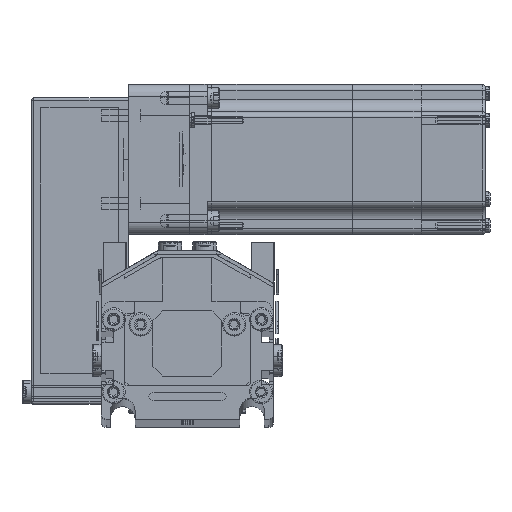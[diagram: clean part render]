
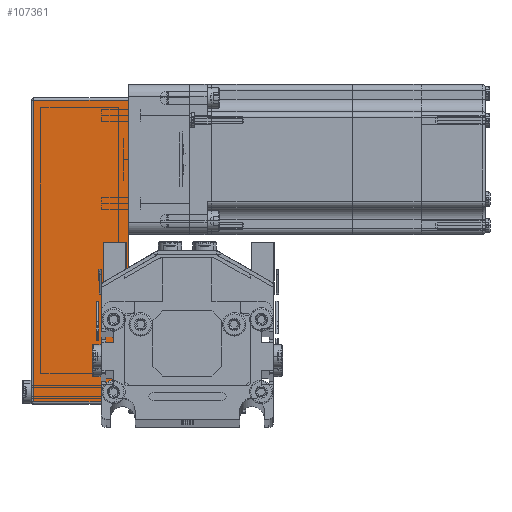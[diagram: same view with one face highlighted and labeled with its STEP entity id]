
A CAD part, top view. The second image highlights one B-rep face of the part: STEP entity #107361.
In plain terms, the highlighted planar face has unit normal (0, 0, 1) as drawn and (0, -1, 0) by its records, which use the part's own axes.
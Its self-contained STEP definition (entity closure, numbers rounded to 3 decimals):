
#35897 = LINE ( 'NONE', #36015, #36013 ) ;
#35901 = CARTESIAN_POINT ( 'NONE',  ( -49., -25., 0. ) ) ;
#35981 = CARTESIAN_POINT ( 'NONE',  ( 73.5, -25., 38.5 ) ) ;
#36011 = DIRECTION ( 'NONE',  ( 1., 0., 0. ) ) ;
#36013 = VECTOR ( 'NONE', #36011, 1000. ) ;
#36015 = CARTESIAN_POINT ( 'NONE',  ( -50., -25., 0. ) ) ;
#36041 = AXIS2_PLACEMENT_3D ( 'NONE', #36128, #36127, #36125 ) ;
#36088 = DIRECTION ( 'NONE',  ( -1., 0., 0. ) ) ;
#36089 = VECTOR ( 'NONE', #36088, 1000. ) ;
#36091 = CARTESIAN_POINT ( 'NONE',  ( -50., -25., 38.5 ) ) ;
#36093 = LINE ( 'NONE', #36091, #36089 ) ;
#36120 = DIRECTION ( 'NONE',  ( 0., 0., -1. ) ) ;
#36121 = VECTOR ( 'NONE', #36120, 1000. ) ;
#36122 = CARTESIAN_POINT ( 'NONE',  ( -49., -25., 39.5 ) ) ;
#36125 = DIRECTION ( 'NONE',  ( 0., 0., 1. ) ) ;
#36127 = DIRECTION ( 'NONE',  ( 0., 1., 0. ) ) ;
#36128 = CARTESIAN_POINT ( 'NONE',  ( -50., -25., 39.5 ) ) ;
#36135 = FACE_OUTER_BOUND ( 'NONE', #107313, .T. ) ;
#36148 = PLANE ( 'NONE',  #36041 ) ;
#36156 = LINE ( 'NONE', #36122, #36121 ) ;
#36182 = CARTESIAN_POINT ( 'NONE',  ( -49., -25., 38.5 ) ) ;
#36193 = DIRECTION ( 'NONE',  ( 0., 0., 1. ) ) ;
#36209 = VECTOR ( 'NONE', #36193, 1000. ) ;
#36211 = CARTESIAN_POINT ( 'NONE',  ( 73.5, -25., 39.5 ) ) ;
#36212 = LINE ( 'NONE', #36211, #36209 ) ;
#36264 = CARTESIAN_POINT ( 'NONE',  ( 73.5, -25., 0. ) ) ;
#107288 = VERTEX_POINT ( 'NONE', #35901 ) ;
#107290 = EDGE_CURVE ( 'NONE', #107288, #107477, #35897, .T. ) ;
#107312 = VERTEX_POINT ( 'NONE', #35981 ) ;
#107313 = EDGE_LOOP ( 'NONE', ( #107364, #107395, #107407, #107412 ) ) ;
#107361 = ADVANCED_FACE ( 'NONE', ( #36135 ), #36148, .F. ) ;
#107364 = ORIENTED_EDGE ( 'NONE', *, *, #107380, .T. ) ;
#107366 = EDGE_CURVE ( 'NONE', #107399, #107288, #36156, .T. ) ;
#107380 = EDGE_CURVE ( 'NONE', #107312, #107399, #36093, .T. ) ;
#107386 = EDGE_CURVE ( 'NONE', #107477, #107312, #36212, .T. ) ;
#107395 = ORIENTED_EDGE ( 'NONE', *, *, #107366, .T. ) ;
#107399 = VERTEX_POINT ( 'NONE', #36182 ) ;
#107407 = ORIENTED_EDGE ( 'NONE', *, *, #107290, .T. ) ;
#107412 = ORIENTED_EDGE ( 'NONE', *, *, #107386, .T. ) ;
#107477 = VERTEX_POINT ( 'NONE', #36264 ) ;
